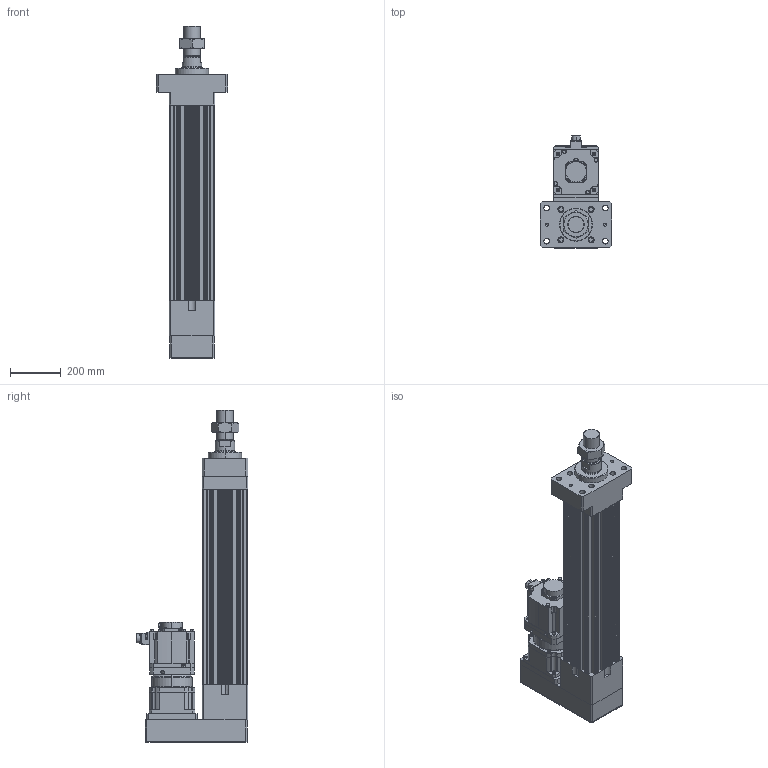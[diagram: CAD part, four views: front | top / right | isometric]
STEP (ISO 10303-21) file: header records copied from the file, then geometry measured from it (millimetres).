
FILE_DESCRIPTION (( 'STEP AP203' ), '1' );
FILE_NAME ('HES180HS-P450-W050G00-M-FMA.STEP', '2023-02-01T08:14:57', ( 'tms' ), ( '' ), 'SwSTEP 2.0', 'SolidWorks 2013', '' );
FILE_SCHEMA (( 'CONFIG_CONTROL_DESIGN' ));
Length unit declared in the file: millimetre
Products named in the file (9): P0403600401; HG-SR502; HES180-P450-G180-FMA; AB1801; HES180 ROD M ST450; HES180HS-P450-W050G00-M-FMA; M64X2.0P; AB180-003[HG-SR702B]; P1301600001
Assembly tree (8 placements, depth 3):
  HES180HS-P450-W050G00-M-FMA
    HES180-P450-G180-FMA
    HES180 ROD M ST450
    M64X2.0P
    AB180-003[HG-SR702B]
      AB1801
      P1301600001
      P0403600401
    HG-SR502
Bounding box: 280 x 438.85 x 1302 mm (x, y, z)
Volume: 29752303.4 mm3; surface area: 2543399.4 mm2
Topology: 4 solids, 19 shells, 1431 faces, 3715 edges, 2410 vertices
Faces by surface type: cylinder 663, plane 555, cone 146, bspline 63, torus 4
Entity records: 52578 total; most frequent: CARTESIAN_POINT 15982, DIRECTION 7693, ORIENTED_EDGE 7330, EDGE_CURVE 3689, AXIS2_PLACEMENT_3D 2901, VERTEX_POINT 2410, VECTOR 1891, LINE 1891
